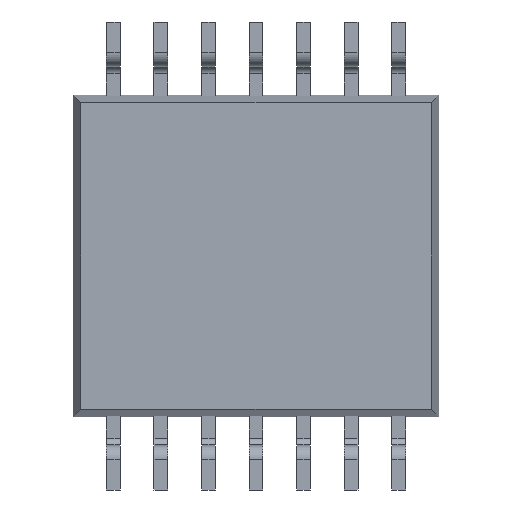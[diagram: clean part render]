
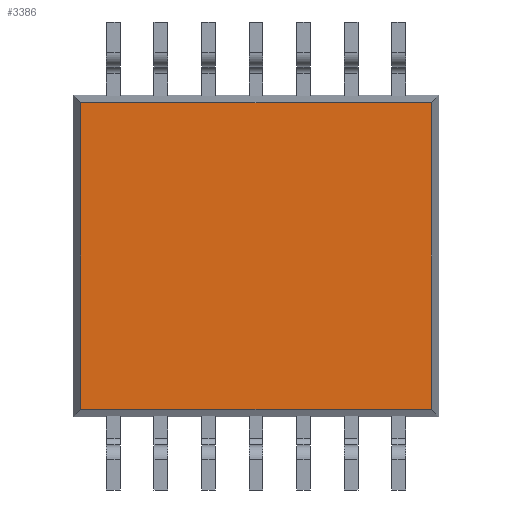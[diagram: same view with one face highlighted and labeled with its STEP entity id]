
A CAD part, front view. The second image highlights one B-rep face of the part: STEP entity #3386.
In plain terms, the highlighted planar face has unit normal (0, -1, 0).
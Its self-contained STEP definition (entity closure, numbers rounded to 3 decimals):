
#5 = CARTESIAN_POINT ( 'NONE',  ( -2.394, -0.5, 2.094 ) ) ;
#188 = DIRECTION ( 'NONE',  ( 0., 0., -1. ) ) ;
#233 = VERTEX_POINT ( 'NONE', #5 ) ;
#364 = CARTESIAN_POINT ( 'NONE',  ( -2.5, -0.5, 2.094 ) ) ;
#662 = VECTOR ( 'NONE', #1308, 1000. ) ;
#864 = LINE ( 'NONE', #364, #1097 ) ;
#877 = CARTESIAN_POINT ( 'NONE',  ( 2.394, -0.5, 2.094 ) ) ;
#1097 = VECTOR ( 'NONE', #6495, 1000. ) ;
#1143 = ORIENTED_EDGE ( 'NONE', *, *, #2343, .F. ) ;
#1203 = ORIENTED_EDGE ( 'NONE', *, *, #4330, .F. ) ;
#1308 = DIRECTION ( 'NONE',  ( 0., 0., 1. ) ) ;
#1402 = AXIS2_PLACEMENT_3D ( 'NONE', #2685, #3601, #1652 ) ;
#1652 = DIRECTION ( 'NONE',  ( 0., 0., -1. ) ) ;
#1888 = CARTESIAN_POINT ( 'NONE',  ( -2.394, -0.5, -2.094 ) ) ;
#2268 = ORIENTED_EDGE ( 'NONE', *, *, #3578, .F. ) ;
#2305 = VERTEX_POINT ( 'NONE', #877 ) ;
#2317 = CARTESIAN_POINT ( 'NONE',  ( -2.394, -0.5, 2.2 ) ) ;
#2343 = EDGE_CURVE ( 'NONE', #2305, #6561, #4067, .T. ) ;
#2685 = CARTESIAN_POINT ( 'NONE',  ( 0., -0.5, 0. ) ) ;
#2979 = CARTESIAN_POINT ( 'NONE',  ( 2.394, -0.5, 2.2 ) ) ;
#3106 = VECTOR ( 'NONE', #4443, 1000. ) ;
#3343 = VECTOR ( 'NONE', #188, 1000. ) ;
#3362 = LINE ( 'NONE', #2317, #662 ) ;
#3386 = ADVANCED_FACE ( 'NONE', ( #3969 ), #4041, .T. ) ;
#3578 = EDGE_CURVE ( 'NONE', #6497, #233, #3362, .T. ) ;
#3601 = DIRECTION ( 'NONE',  ( 0., -1., 0. ) ) ;
#3969 = FACE_OUTER_BOUND ( 'NONE', #4808, .T. ) ;
#4041 = PLANE ( 'NONE',  #1402 ) ;
#4067 = LINE ( 'NONE', #2979, #3343 ) ;
#4330 = EDGE_CURVE ( 'NONE', #233, #2305, #864, .T. ) ;
#4375 = CARTESIAN_POINT ( 'NONE',  ( -2.5, -0.5, -2.094 ) ) ;
#4443 = DIRECTION ( 'NONE',  ( -1., 0., 0. ) ) ;
#4569 = CARTESIAN_POINT ( 'NONE',  ( 2.394, -0.5, -2.094 ) ) ;
#4808 = EDGE_LOOP ( 'NONE', ( #1143, #1203, #2268, #5827 ) ) ;
#5761 = EDGE_CURVE ( 'NONE', #6561, #6497, #6465, .T. ) ;
#5827 = ORIENTED_EDGE ( 'NONE', *, *, #5761, .F. ) ;
#6465 = LINE ( 'NONE', #4375, #3106 ) ;
#6495 = DIRECTION ( 'NONE',  ( 1., 0., 0. ) ) ;
#6497 = VERTEX_POINT ( 'NONE', #1888 ) ;
#6561 = VERTEX_POINT ( 'NONE', #4569 ) ;
